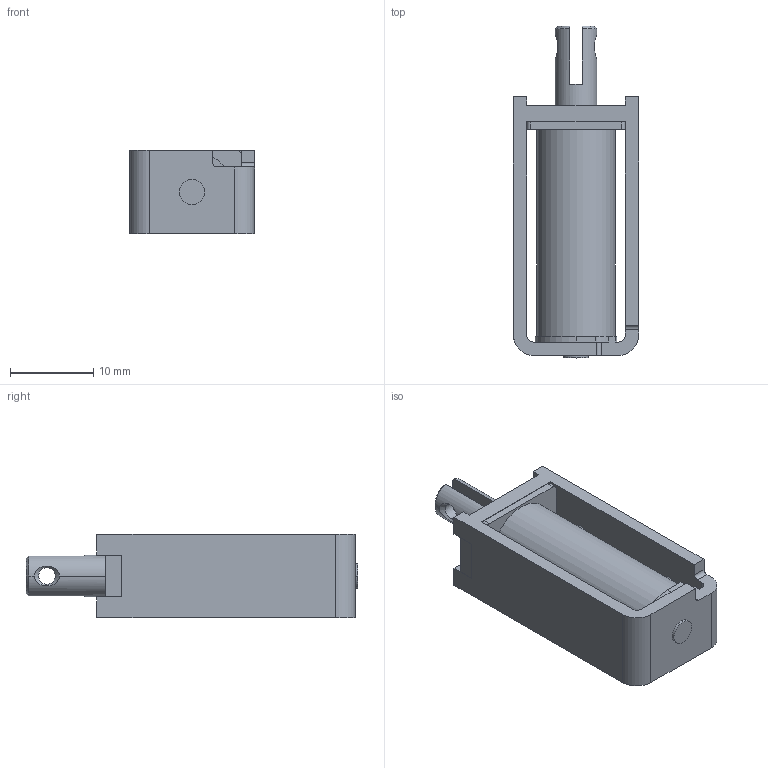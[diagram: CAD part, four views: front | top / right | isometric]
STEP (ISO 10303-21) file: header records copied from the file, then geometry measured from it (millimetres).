
FILE_DESCRIPTION (( 'STEP AP203' ), '1' );
FILE_NAME ('w_ca0531.STEP', '2014-07-08T02:43:45', ( 'jiba' ), ( 'Hewlett-Packard Company' ), 'SwSTEP 2.0', 'SolidWorks 2014', '' );
FILE_SCHEMA (( 'CONFIG_CONTROL_DESIGN' ));
Length unit declared in the file: millimetre
Products named in the file (4): w_20531030; w_ca0531_pl; w_ca0531; Part1^w_ca0531
Assembly tree (3 placements, depth 3):
  w_ca0531
    Part1^w_ca0531
    w_ca0531_pl
      w_20531030
Bounding box: 15 x 39.8 x 10 mm (x, y, z)
Volume: 3334.9 mm3; surface area: 3443.1 mm2
Topology: 2 solids, 2 shells, 93 faces, 262 edges, 173 vertices
Faces by surface type: plane 50, cylinder 36, cone 7
Entity records: 3537 total; most frequent: CARTESIAN_POINT 639, DIRECTION 529, ORIENTED_EDGE 524, EDGE_CURVE 262, AXIS2_PLACEMENT_3D 179, VERTEX_POINT 173, LINE 171, VECTOR 171
